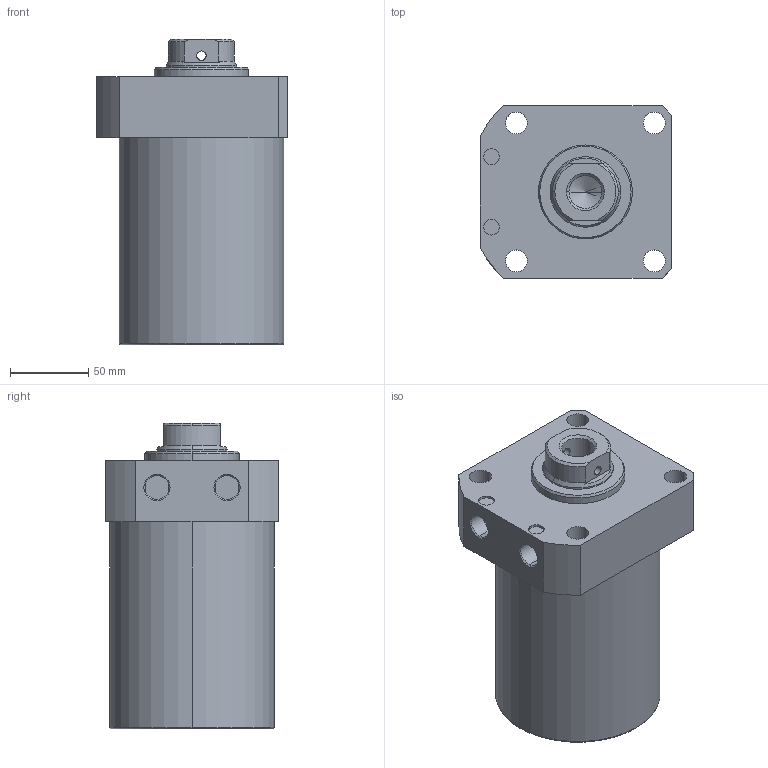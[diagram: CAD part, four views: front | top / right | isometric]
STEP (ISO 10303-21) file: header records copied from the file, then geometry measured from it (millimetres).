
FILE_DESCRIPTION (( 'STEP AP203' ), '1' );
FILE_NAME ('CLLR-105CB-085.STEP', '2019-12-18T07:25:11', ( '' ), ( '' ), 'SwSTEP 2.0', 'SolidWorks 2015', '' );
FILE_SCHEMA (( 'CONFIG_CONTROL_DESIGN' ));
Length unit declared in the file: millimetre
Products named in the file (1): CLLR-105CB-085
Bounding box: 122 x 110 x 195 mm (x, y, z)
Volume: 1639718.2 mm3; surface area: 102305 mm2
Topology: 1 solids, 1 shells, 69 faces, 165 edges, 104 vertices
Faces by surface type: cylinder 33, plane 19, cone 15, torus 2
Entity records: 2227 total; most frequent: CARTESIAN_POINT 481, DIRECTION 372, ORIENTED_EDGE 326, EDGE_CURVE 163, AXIS2_PLACEMENT_3D 151, VERTEX_POINT 104, EDGE_LOOP 89, CIRCLE 81
